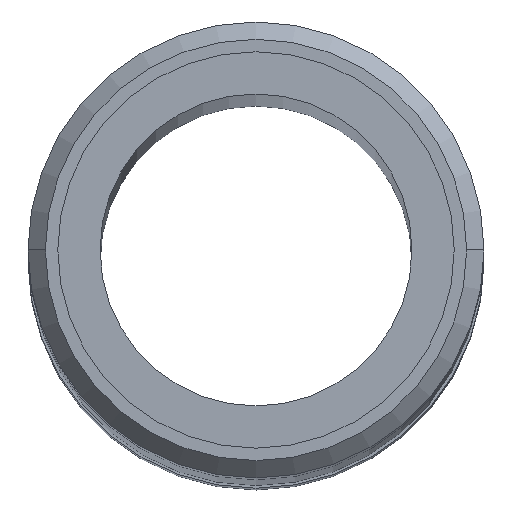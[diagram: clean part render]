
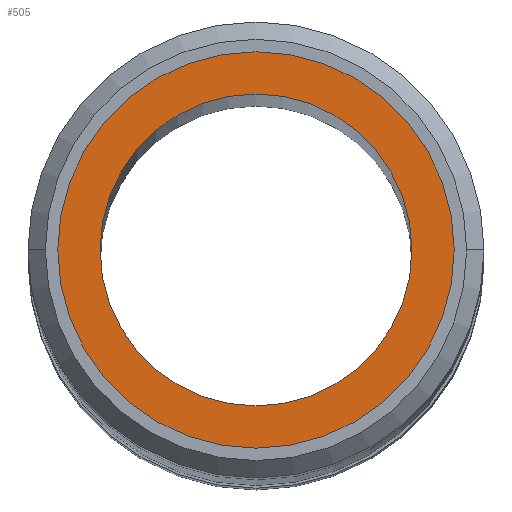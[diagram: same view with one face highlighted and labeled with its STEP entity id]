
A CAD part, top view. The second image highlights one B-rep face of the part: STEP entity #505.
In plain terms, the highlighted planar face has unit normal (0, 0, 1).
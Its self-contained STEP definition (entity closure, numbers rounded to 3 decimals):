
#1 = AXIS2_PLACEMENT_3D ( 'NONE', #463, #455, #443 ) ;
#8 = EDGE_LOOP ( 'NONE', ( #34, #12 ) ) ;
#12 = ORIENTED_EDGE ( 'NONE', *, *, #1232, .T. ) ;
#34 = ORIENTED_EDGE ( 'NONE', *, *, #805, .T. ) ;
#37 = VERTEX_POINT ( 'NONE', #201 ) ;
#56 = ORIENTED_EDGE ( 'NONE', *, *, #1075, .F. ) ;
#57 = ORIENTED_EDGE ( 'NONE', *, *, #814, .F. ) ;
#61 = VERTEX_POINT ( 'NONE', #431 ) ;
#129 = VERTEX_POINT ( 'NONE', #600 ) ;
#201 = CARTESIAN_POINT ( 'NONE',  ( -5.72, 0., 200. ) ) ;
#318 = VERTEX_POINT ( 'NONE', #488 ) ;
#348 = DIRECTION ( 'NONE',  ( -1., 0., 0. ) ) ;
#350 = DIRECTION ( 'NONE',  ( 0., 0., -1. ) ) ;
#367 = CARTESIAN_POINT ( 'NONE',  ( 0., 0., 200. ) ) ;
#429 = CIRCLE ( 'NONE', #1067, 4.5 ) ;
#431 = CARTESIAN_POINT ( 'NONE',  ( 5.72, 0., 200. ) ) ;
#443 = DIRECTION ( 'NONE',  ( -1., 0., 0. ) ) ;
#455 = DIRECTION ( 'NONE',  ( 0., 0., -1. ) ) ;
#461 = FACE_BOUND ( 'NONE', #8, .T. ) ;
#463 = CARTESIAN_POINT ( 'NONE',  ( 0., 0., 200. ) ) ;
#484 = CIRCLE ( 'NONE', #1107, 5.72 ) ;
#488 = CARTESIAN_POINT ( 'NONE',  ( -4.5, 0., 200. ) ) ;
#505 = ADVANCED_FACE ( 'NONE', ( #461, #1018 ), #929, .T. ) ;
#600 = CARTESIAN_POINT ( 'NONE',  ( 4.5, 0., 200. ) ) ;
#670 = CIRCLE ( 'NONE', #1243, 5.72 ) ;
#721 = DIRECTION ( 'NONE',  ( 1., 0., 0. ) ) ;
#767 = CARTESIAN_POINT ( 'NONE',  ( 5.72, 0., 200. ) ) ;
#770 = EDGE_LOOP ( 'NONE', ( #56, #57 ) ) ;
#805 = EDGE_CURVE ( 'NONE', #318, #129, #1163, .T. ) ;
#814 = EDGE_CURVE ( 'NONE', #61, #37, #670, .T. ) ;
#929 = PLANE ( 'NONE',  #1194 ) ;
#994 = DIRECTION ( 'NONE',  ( 0., 0., 1. ) ) ;
#1005 = DIRECTION ( 'NONE',  ( -1., 0., 0. ) ) ;
#1011 = DIRECTION ( 'NONE',  ( 0., 0., -1. ) ) ;
#1012 = CARTESIAN_POINT ( 'NONE',  ( 0., 0., 200. ) ) ;
#1018 = FACE_OUTER_BOUND ( 'NONE', #770, .T. ) ;
#1067 = AXIS2_PLACEMENT_3D ( 'NONE', #1012, #1011, #1005 ) ;
#1075 = EDGE_CURVE ( 'NONE', #37, #61, #484, .T. ) ;
#1107 = AXIS2_PLACEMENT_3D ( 'NONE', #1193, #1192, #1185 ) ;
#1163 = CIRCLE ( 'NONE', #1, 4.5 ) ;
#1185 = DIRECTION ( 'NONE',  ( -1., 0., 0. ) ) ;
#1192 = DIRECTION ( 'NONE',  ( 0., 0., -1. ) ) ;
#1193 = CARTESIAN_POINT ( 'NONE',  ( 0., 0., 200. ) ) ;
#1194 = AXIS2_PLACEMENT_3D ( 'NONE', #767, #994, #721 ) ;
#1232 = EDGE_CURVE ( 'NONE', #129, #318, #429, .T. ) ;
#1243 = AXIS2_PLACEMENT_3D ( 'NONE', #367, #350, #348 ) ;
